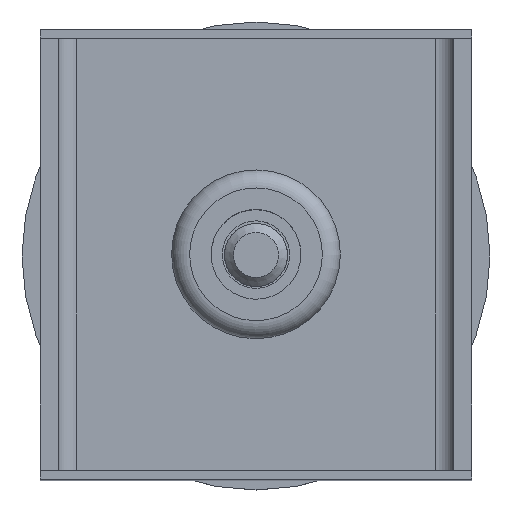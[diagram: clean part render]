
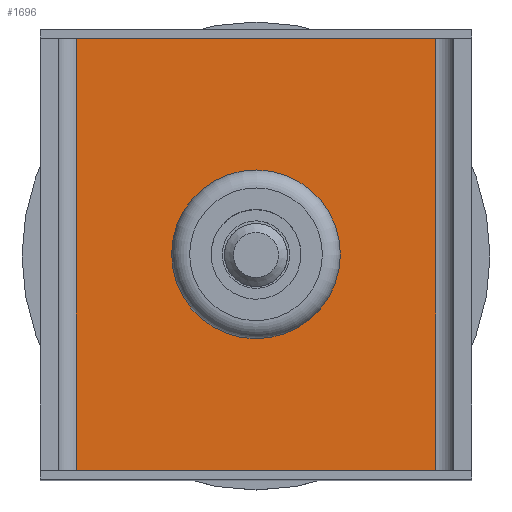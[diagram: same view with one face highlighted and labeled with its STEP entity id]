
A CAD part, top view. The second image highlights one B-rep face of the part: STEP entity #1696.
In plain terms, the highlighted planar face has unit normal (0, 0, 1).
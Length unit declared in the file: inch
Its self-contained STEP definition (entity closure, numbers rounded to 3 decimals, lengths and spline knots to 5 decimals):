
#1128=CARTESIAN_POINT('',(2.6875,-2.625,0.25));
#1129=VERTEX_POINT('',#1128);
#1130=CARTESIAN_POINT('',(1.75,-2.625,0.25));
#1131=DIRECTION('',(0.0,0.0,-1.0));
#1132=DIRECTION('',(-1.0,0.0,0.0));
#1133=AXIS2_PLACEMENT_3D('',#1130,#1131,#1132);
#1134=CIRCLE('',#1133,0.9375);
#1135=EDGE_CURVE('',#1129,#1129,#1134,.T.);
#1273=CARTESIAN_POINT('',(4.25,-5.625,0.25));
#1274=VERTEX_POINT('',#1273);
#1299=CARTESIAN_POINT('',(4.25,0.375,0.25));
#1300=VERTEX_POINT('',#1299);
#1377=CARTESIAN_POINT('',(4.25,-5.625,0.25));
#1378=DIRECTION('',(0.0,1.0,0.0));
#1379=VECTOR('',#1378,6.);
#1380=LINE('',#1377,#1379);
#1381=EDGE_CURVE('',#1274,#1300,#1380,.T.);
#1401=CARTESIAN_POINT('',(-0.75,0.375,0.25));
#1402=VERTEX_POINT('',#1401);
#1409=CARTESIAN_POINT('',(-0.75,0.375,0.25));
#1410=DIRECTION('',(1.0,0.0,0.0));
#1411=VECTOR('',#1410,5.0);
#1412=LINE('',#1409,#1411);
#1413=EDGE_CURVE('',#1402,#1300,#1412,.T.);
#1577=CARTESIAN_POINT('',(-0.75,-5.625,0.25));
#1578=VERTEX_POINT('',#1577);
#1655=CARTESIAN_POINT('',(-0.75,0.375,0.25));
#1656=DIRECTION('',(0.0,-1.0,0.0));
#1657=VECTOR('',#1656,6.0);
#1658=LINE('',#1655,#1657);
#1659=EDGE_CURVE('',#1402,#1578,#1658,.T.);
#1671=CARTESIAN_POINT('',(4.25,-5.625,0.25));
#1672=DIRECTION('',(-1.0,0.0,0.0));
#1673=VECTOR('',#1672,5.);
#1674=LINE('',#1671,#1673);
#1675=EDGE_CURVE('',#1274,#1578,#1674,.T.);
#1682=CARTESIAN_POINT('',(1.75,-2.625,0.25));
#1683=DIRECTION('',(0.0,0.0,1.0));
#1684=DIRECTION('',(1.0,0.0,0.0));
#1685=AXIS2_PLACEMENT_3D('',#1682,#1683,#1684);
#1686=PLANE('',#1685);
#1687=ORIENTED_EDGE('',*,*,#1381,.T.);
#1688=ORIENTED_EDGE('',*,*,#1413,.F.);
#1689=ORIENTED_EDGE('',*,*,#1659,.T.);
#1690=ORIENTED_EDGE('',*,*,#1675,.F.);
#1691=EDGE_LOOP('',(#1687,#1688,#1689,#1690));
#1692=FACE_OUTER_BOUND('',#1691,.T.);
#1693=ORIENTED_EDGE('',*,*,#1135,.T.);
#1694=EDGE_LOOP('',(#1693));
#1695=FACE_BOUND('',#1694,.T.);
#1696=ADVANCED_FACE('',(#1692,#1695),#1686,.T.);
